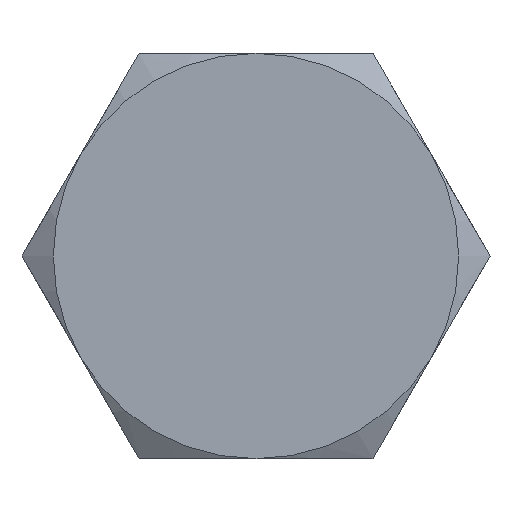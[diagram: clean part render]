
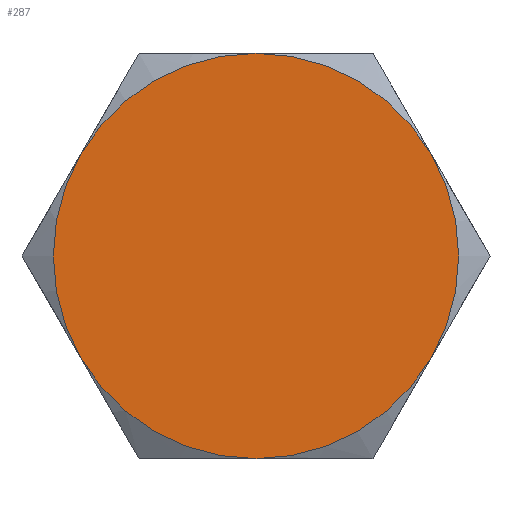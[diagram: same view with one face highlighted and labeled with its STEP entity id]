
A CAD part, left-side view. The second image highlights one B-rep face of the part: STEP entity #287.
In plain terms, the highlighted planar face has unit normal (-1, 0, 0).
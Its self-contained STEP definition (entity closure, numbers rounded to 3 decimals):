
#37=PLANE('',#340);
#57=FACE_OUTER_BOUND('',#77,.T.);
#77=EDGE_LOOP('',(#252,#253,#254,#255,#256,#257));
#115=CIRCLE('',#321,6.5);
#116=CIRCLE('',#323,6.5);
#117=CIRCLE('',#325,6.5);
#118=CIRCLE('',#327,6.5);
#119=CIRCLE('',#329,6.5);
#120=CIRCLE('',#331,6.5);
#127=VERTEX_POINT('',#438);
#129=VERTEX_POINT('',#443);
#131=VERTEX_POINT('',#450);
#132=VERTEX_POINT('',#459);
#135=VERTEX_POINT('',#470);
#136=VERTEX_POINT('',#479);
#154=EDGE_CURVE('',#129,#127,#115,.T.);
#158=EDGE_CURVE('',#131,#129,#116,.T.);
#160=EDGE_CURVE('',#127,#132,#117,.T.);
#164=EDGE_CURVE('',#135,#131,#118,.T.);
#166=EDGE_CURVE('',#132,#136,#119,.T.);
#170=EDGE_CURVE('',#136,#135,#120,.T.);
#252=ORIENTED_EDGE('',*,*,#154,.T.);
#253=ORIENTED_EDGE('',*,*,#160,.T.);
#254=ORIENTED_EDGE('',*,*,#166,.T.);
#255=ORIENTED_EDGE('',*,*,#170,.T.);
#256=ORIENTED_EDGE('',*,*,#164,.T.);
#257=ORIENTED_EDGE('',*,*,#158,.T.);
#287=ADVANCED_FACE('',(#57),#37,.F.);
#321=AXIS2_PLACEMENT_3D('',#444,#364,#365);
#323=AXIS2_PLACEMENT_3D('',#457,#368,#369);
#325=AXIS2_PLACEMENT_3D('',#464,#372,#373);
#327=AXIS2_PLACEMENT_3D('',#477,#376,#377);
#329=AXIS2_PLACEMENT_3D('',#484,#380,#381);
#331=AXIS2_PLACEMENT_3D('',#496,#384,#385);
#340=AXIS2_PLACEMENT_3D('',#524,#414,#415);
#364=DIRECTION('center_axis',(-1.,0.,0.));
#365=DIRECTION('ref_axis',(0.,1.,0.));
#368=DIRECTION('center_axis',(-1.,0.,0.));
#369=DIRECTION('ref_axis',(0.,1.,0.));
#372=DIRECTION('center_axis',(-1.,0.,0.));
#373=DIRECTION('ref_axis',(0.,1.,0.));
#376=DIRECTION('center_axis',(-1.,0.,0.));
#377=DIRECTION('ref_axis',(0.,1.,0.));
#380=DIRECTION('center_axis',(-1.,0.,0.));
#381=DIRECTION('ref_axis',(0.,1.,0.));
#384=DIRECTION('center_axis',(-1.,0.,0.));
#385=DIRECTION('ref_axis',(0.,1.,0.));
#414=DIRECTION('center_axis',(1.,0.,0.));
#415=DIRECTION('ref_axis',(0.,0.,-1.));
#438=CARTESIAN_POINT('',(-5.3,5.629,3.25));
#443=CARTESIAN_POINT('',(-5.3,0.,6.5));
#444=CARTESIAN_POINT('Origin',(-5.3,0.,0.));
#450=CARTESIAN_POINT('',(-5.3,-5.629,3.25));
#457=CARTESIAN_POINT('Origin',(-5.3,0.,0.));
#459=CARTESIAN_POINT('',(-5.3,5.629,-3.25));
#464=CARTESIAN_POINT('Origin',(-5.3,0.,0.));
#470=CARTESIAN_POINT('',(-5.3,-5.629,-3.25));
#477=CARTESIAN_POINT('Origin',(-5.3,0.,0.));
#479=CARTESIAN_POINT('',(-5.3,0.,-6.5));
#484=CARTESIAN_POINT('Origin',(-5.3,0.,0.));
#496=CARTESIAN_POINT('Origin',(-5.3,0.,0.));
#524=CARTESIAN_POINT('Origin',(-5.3,0.,
0.));
